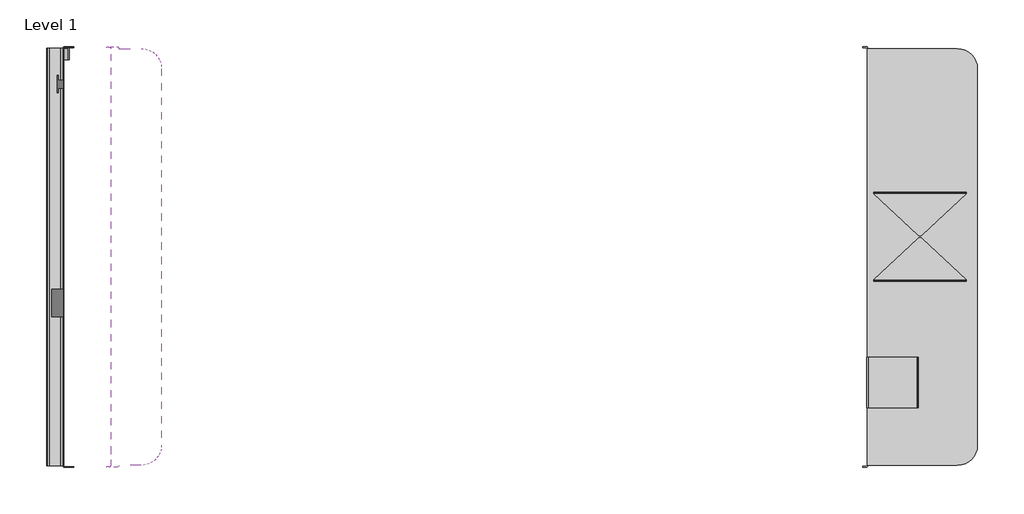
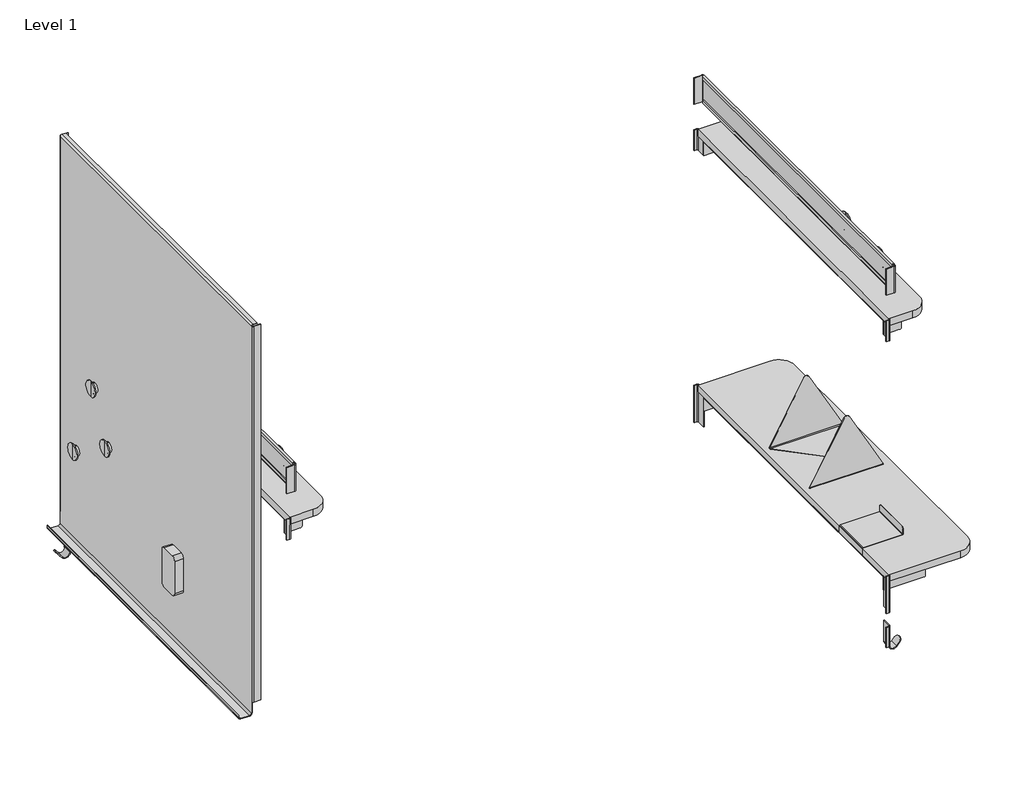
# One storey, incomplete: 3 proxies.
"""IFC4 building model written with IfcOpenShell, lengths in millimetres."""

from ifc_helpers import new_model, si_unit, origin, place, context, project, spatial, transform, mapped, element, save
from components import library_set_matte_black_a84b912c, library_set_matte_black_280bab07, library_set_matte_black_b317612b, note_set_matte_black_98218ece

model = new_model("IFC4")

# Units and contexts
model_context = context("Model", 3, world=origin())
ifc_project = project(units=[si_unit("LENGTHUNIT", "METRE", prefix="MILLI")], contexts=[model_context])

# Site, building, storey
site = spatial("IfcSite", under=ifc_project)
building = spatial("IfcBuilding", under=site)
storey = spatial("IfcBuildingStorey", under=building, Name="Level 1", Elevation=0.0)

# Proxies
placement = place(None, origin())
library_set_matte_black_shape = library_set_matte_black_a84b912c(model_context)
library_set_matte_black_2_shape = library_set_matte_black_280bab07(model_context)
element("IfcBuildingElementProxy", 1, Name="Library set : Matte black", ObjectType="Library set : Matte black", at=placement, inside=storey, context=model_context, shape_type="MappedRepresentation", body=[
    mapped(library_set_matte_black_shape, transform((-4288.740508, 384.4595405, 0.0), x_axis=(0.0, 1.0, 0.0), y_axis=(-1.0, 0.0, 0.0), z_axis=(0.0, 0.0, 1.0))),
    mapped(library_set_matte_black_2_shape, transform((-4288.740508, 384.4595405, 0.0), x_axis=(0.0, 1.0, 0.0), y_axis=(-1.0, 0.0, 0.0), z_axis=(0.0, 0.0, 1.0))),
])
library_set_matte_black_3_shape = library_set_matte_black_b317612b(model_context)
element("IfcBuildingElementProxy", 2, Name="Library set : Matte black", ObjectType="Library set : Matte black", at=placement, inside=storey, context=model_context, shape_type="MappedRepresentation", body=[
    mapped(library_set_matte_black_3_shape, transform((-5794.2477562, 384.4595405, 0.0), x_axis=(0.0, 1.0, 0.0), y_axis=(-1.0, 0.0, 0.0), z_axis=(0.0, 0.0, 1.0))),
])
note_set_matte_black_shape = note_set_matte_black_98218ece(model_context)
element("IfcBuildingElementProxy", 3, Name="Note set : Matte black", ObjectType="Note set : Matte black", at=placement, inside=storey, context=model_context, shape_type="MappedRepresentation", body=[
    mapped(note_set_matte_black_shape, transform((-5868.240508, 384.3633007, 0.0), x_axis=(0.0, -1.0, 0.0), y_axis=(1.0, 0.0, 0.0), z_axis=(0.0, 0.0, 1.0))),
])

save(model, "model.ifc")
